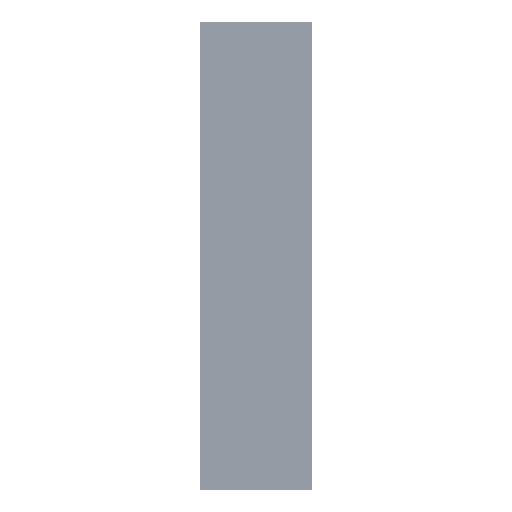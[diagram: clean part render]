
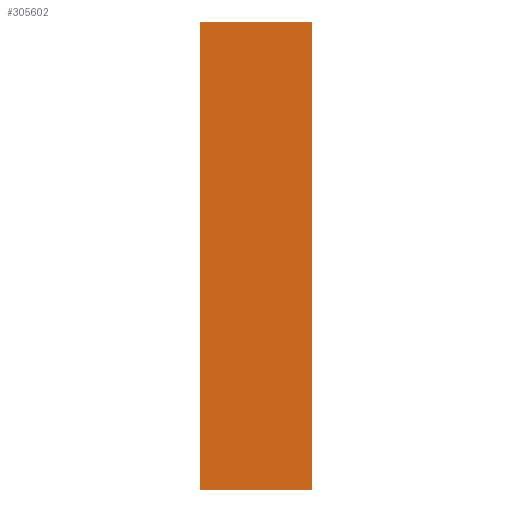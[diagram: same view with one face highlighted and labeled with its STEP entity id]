
A CAD part, front view. The second image highlights one B-rep face of the part: STEP entity #305602.
In plain terms, the highlighted planar face has unit normal (0, -1, 0).
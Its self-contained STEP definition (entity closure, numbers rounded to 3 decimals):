
#7190 = DIRECTION ( 'NONE',  ( 0., 1., 0. ) ) ;
#7280 = LINE ( 'NONE', #268349, #372983 ) ;
#28266 = VECTOR ( 'NONE', #399815, 1000. ) ;
#50801 = EDGE_CURVE ( 'NONE', #383041, #418438, #7280, .T. ) ;
#68994 = DIRECTION ( 'NONE',  ( -1., 0., 0. ) ) ;
#82952 = FACE_OUTER_BOUND ( 'NONE', #329672, .T. ) ;
#91816 = LINE ( 'NONE', #422798, #269155 ) ;
#95653 = EDGE_CURVE ( 'NONE', #256235, #383041, #310934, .T. ) ;
#97376 = VERTEX_POINT ( 'NONE', #321703 ) ;
#111352 = ORIENTED_EDGE ( 'NONE', *, *, #95653, .F. ) ;
#148282 = CARTESIAN_POINT ( 'NONE',  ( -1796.798, -200., 7287.97 ) ) ;
#152136 = CARTESIAN_POINT ( 'NONE',  ( -2096.798, -200., 6037.97 ) ) ;
#164652 = DIRECTION ( 'NONE',  ( 1., 0., 0. ) ) ;
#164957 = EDGE_CURVE ( 'NONE', #418438, #97376, #91816, .T. ) ;
#203683 = EDGE_CURVE ( 'NONE', #97376, #256235, #352022, .T. ) ;
#206736 = ORIENTED_EDGE ( 'NONE', *, *, #164957, .F. ) ;
#210103 = CARTESIAN_POINT ( 'NONE',  ( -1496.798, -200., 6037.97 ) ) ;
#255044 = DIRECTION ( 'NONE',  ( -1., 0., 0. ) ) ;
#256235 = VERTEX_POINT ( 'NONE', #326701 ) ;
#257769 = VECTOR ( 'NONE', #68994, 1000. ) ;
#268349 = CARTESIAN_POINT ( 'NONE',  ( -1496.798, -200., 8537.97 ) ) ;
#269155 = VECTOR ( 'NONE', #458411, 1000. ) ;
#280844 = AXIS2_PLACEMENT_3D ( 'NONE', #148282, #7190, #255044 ) ;
#290012 = ORIENTED_EDGE ( 'NONE', *, *, #50801, .F. ) ;
#305602 = ADVANCED_FACE ( 'NONE', ( #82952 ), #360365, .F. ) ;
#310934 = LINE ( 'NONE', #152136, #28266 ) ;
#321703 = CARTESIAN_POINT ( 'NONE',  ( -1496.798, -200., 6037.97 ) ) ;
#326701 = CARTESIAN_POINT ( 'NONE',  ( -2096.798, -200., 6037.97 ) ) ;
#329672 = EDGE_LOOP ( 'NONE', ( #290012, #111352, #375320, #206736 ) ) ;
#349816 = CARTESIAN_POINT ( 'NONE',  ( -2096.798, -200., 8537.97 ) ) ;
#352022 = LINE ( 'NONE', #210103, #257769 ) ;
#360365 = PLANE ( 'NONE',  #280844 ) ;
#372983 = VECTOR ( 'NONE', #164652, 1000. ) ;
#375320 = ORIENTED_EDGE ( 'NONE', *, *, #203683, .F. ) ;
#383041 = VERTEX_POINT ( 'NONE', #349816 ) ;
#392972 = CARTESIAN_POINT ( 'NONE',  ( -1496.798, -200., 8537.97 ) ) ;
#399815 = DIRECTION ( 'NONE',  ( 0., 0., 1. ) ) ;
#418438 = VERTEX_POINT ( 'NONE', #392972 ) ;
#422798 = CARTESIAN_POINT ( 'NONE',  ( -1496.798, -200., 6037.97 ) ) ;
#458411 = DIRECTION ( 'NONE',  ( 0., 0., -1. ) ) ;
